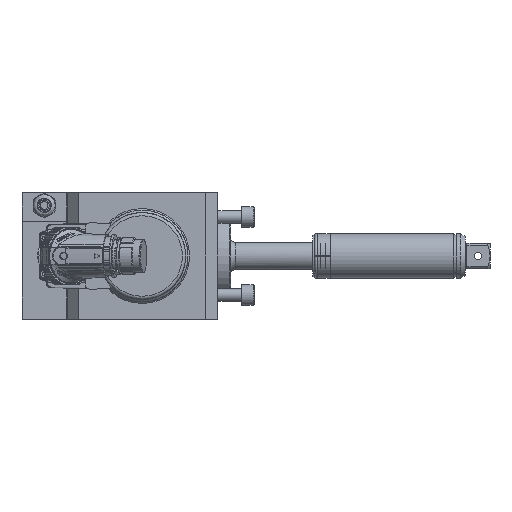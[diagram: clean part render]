
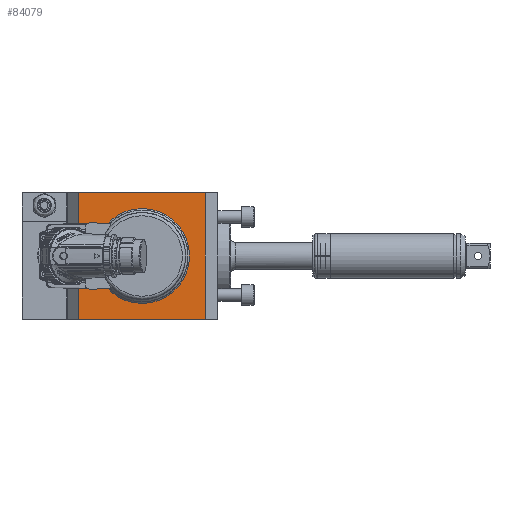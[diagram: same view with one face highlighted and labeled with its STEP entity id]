
A CAD part, left-side view. The second image highlights one B-rep face of the part: STEP entity #84079.
In plain terms, the highlighted planar face has unit normal (-1, 0, 0).
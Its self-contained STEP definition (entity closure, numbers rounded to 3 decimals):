
#152 = DIRECTION ( 'NONE',  ( 0., 0., 1. ) ) ;
#294 = LINE ( 'NONE', #28879, #60017 ) ;
#372 = CIRCLE ( 'NONE', #67170, 30. ) ;
#1319 = EDGE_LOOP ( 'NONE', ( #89158, #74754, #57327, #58891 ) ) ;
#5431 = CARTESIAN_POINT ( 'NONE',  ( -73.5, 48., 0. ) ) ;
#9200 = CARTESIAN_POINT ( 'NONE',  ( -73.5, 48., 30. ) ) ;
#15602 = CARTESIAN_POINT ( 'NONE',  ( -73.5, 48., 0. ) ) ;
#16554 = CARTESIAN_POINT ( 'NONE',  ( -73.5, 8., -40. ) ) ;
#16735 = LINE ( 'NONE', #83342, #70782 ) ;
#17313 = VERTEX_POINT ( 'NONE', #87863 ) ;
#18973 = VERTEX_POINT ( 'NONE', #81081 ) ;
#22675 = EDGE_CURVE ( 'NONE', #18973, #47900, #24947, .T. ) ;
#24947 = LINE ( 'NONE', #46847, #49630 ) ;
#28734 = DIRECTION ( 'NONE',  ( -1., 0., 0. ) ) ;
#28879 = CARTESIAN_POINT ( 'NONE',  ( -73.5, 8., 40. ) ) ;
#30487 = ORIENTED_EDGE ( 'NONE', *, *, #86549, .T. ) ;
#39266 = CARTESIAN_POINT ( 'NONE',  ( -73.5, 88., -40. ) ) ;
#45602 = DIRECTION ( 'NONE',  ( 1., 0., 0. ) ) ;
#46847 = CARTESIAN_POINT ( 'NONE',  ( -73.5, 8., 40. ) ) ;
#47419 = AXIS2_PLACEMENT_3D ( 'NONE', #5431, #28734, #152 ) ;
#47900 = VERTEX_POINT ( 'NONE', #54299 ) ;
#48758 = FACE_BOUND ( 'NONE', #79444, .T. ) ;
#49630 = VECTOR ( 'NONE', #75809, 1000. ) ;
#50654 = PLANE ( 'NONE',  #47419 ) ;
#54299 = CARTESIAN_POINT ( 'NONE',  ( -73.5, 8., -40. ) ) ;
#57156 = VERTEX_POINT ( 'NONE', #39266 ) ;
#57327 = ORIENTED_EDGE ( 'NONE', *, *, #92905, .F. ) ;
#58293 = VECTOR ( 'NONE', #74584, 1000. ) ;
#58891 = ORIENTED_EDGE ( 'NONE', *, *, #84871, .F. ) ;
#60017 = VECTOR ( 'NONE', #88750, 1000. ) ;
#60521 = DIRECTION ( 'NONE',  ( 0., 0., 1. ) ) ;
#67170 = AXIS2_PLACEMENT_3D ( 'NONE', #15602, #45602, #73644 ) ;
#67693 = VERTEX_POINT ( 'NONE', #9200 ) ;
#70782 = VECTOR ( 'NONE', #60521, 1000. ) ;
#73644 = DIRECTION ( 'NONE',  ( 0., 0., 1. ) ) ;
#73736 = EDGE_CURVE ( 'NONE', #17313, #18973, #294, .T. ) ;
#74584 = DIRECTION ( 'NONE',  ( 0., 1., 0. ) ) ;
#74754 = ORIENTED_EDGE ( 'NONE', *, *, #73736, .F. ) ;
#75809 = DIRECTION ( 'NONE',  ( 0., 0., -1. ) ) ;
#79444 = EDGE_LOOP ( 'NONE', ( #30487 ) ) ;
#81081 = CARTESIAN_POINT ( 'NONE',  ( -73.5, 8., 40. ) ) ;
#81741 = LINE ( 'NONE', #16554, #58293 ) ;
#83342 = CARTESIAN_POINT ( 'NONE',  ( -73.5, 88., 40. ) ) ;
#84079 = ADVANCED_FACE ( 'NONE', ( #85354, #48758 ), #50654, .T. ) ;
#84871 = EDGE_CURVE ( 'NONE', #47900, #57156, #81741, .T. ) ;
#85354 = FACE_OUTER_BOUND ( 'NONE', #1319, .T. ) ;
#86549 = EDGE_CURVE ( 'NONE', #67693, #67693, #372, .T. ) ;
#87863 = CARTESIAN_POINT ( 'NONE',  ( -73.5, 88., 40. ) ) ;
#88750 = DIRECTION ( 'NONE',  ( 0., -1., 0. ) ) ;
#89158 = ORIENTED_EDGE ( 'NONE', *, *, #22675, .F. ) ;
#92905 = EDGE_CURVE ( 'NONE', #57156, #17313, #16735, .T. ) ;
